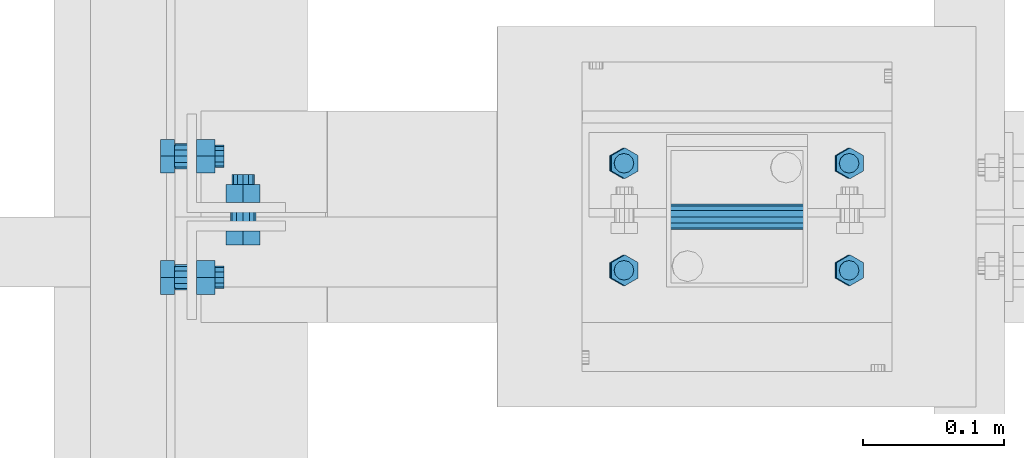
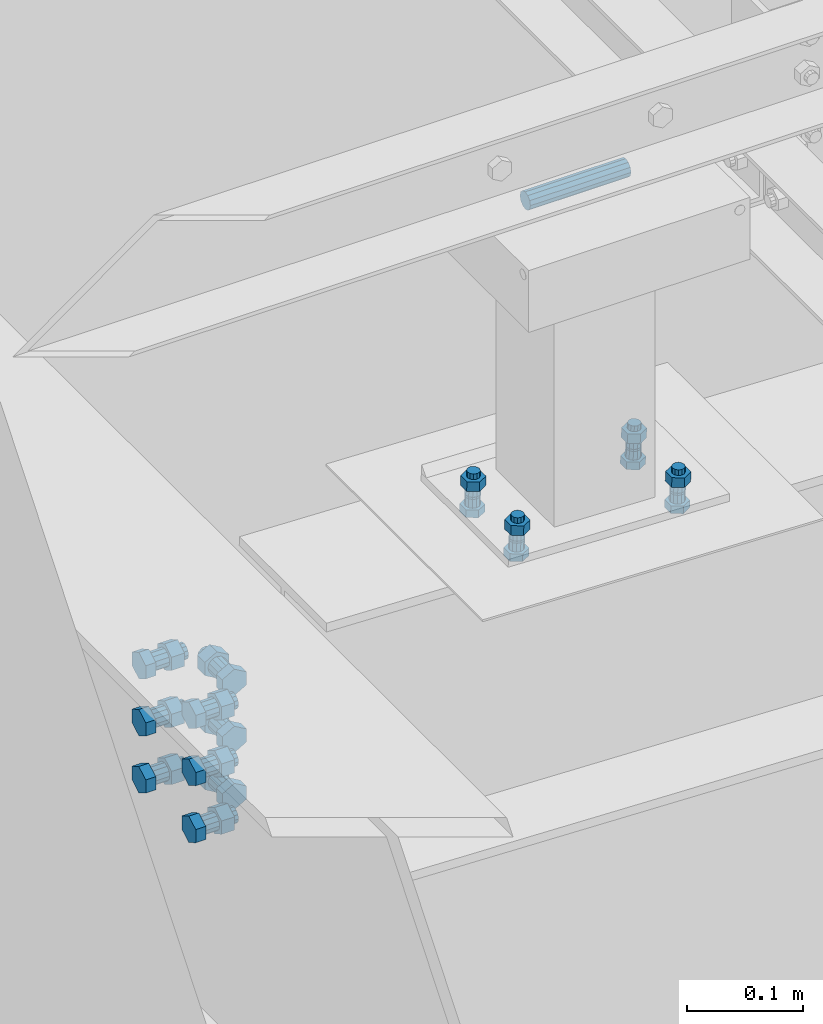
# One storey, part 208 of 3134: 6 mechanical fasteners, 4 elements without a shape of their own.
"""IFC2X3 building model written with IfcOpenShell, lengths in millimetres."""

from ifc_helpers import new_model, si_unit, frame, origin_with_axes, place, context, subcontext, project, spatial, faceted_brep, source, transform, mapped, material, type_object, element, aggregate, save


model = new_model("IFC2X3")

# Units and contexts
model_context = context("Model", 3, precision=1e-05, world=origin_with_axes())
body_context = subcontext(model_context, "Body", "Model", "MODEL_VIEW")
ifc_project = project(units=[si_unit("LENGTHUNIT", "METRE", prefix="MILLI"), si_unit("AREAUNIT", "SQUARE_METRE"), si_unit("VOLUMEUNIT", "CUBIC_METRE"), si_unit("MASSUNIT", "GRAM", prefix="KILO"), si_unit("TIMEUNIT", "SECOND"), si_unit("PLANEANGLEUNIT", "RADIAN"), si_unit("SOLIDANGLEUNIT", "STERADIAN"), si_unit("THERMODYNAMICTEMPERATUREUNIT", "DEGREE_CELSIUS"), si_unit("LUMINOUSINTENSITYUNIT", "LUMEN")], contexts=[model_context])

# Site, building, storey
site_placement = place(None, origin_with_axes())
site = spatial("IfcSite", under=ifc_project, at=site_placement, CompositionType="ELEMENT")
building_placement = place(site_placement, origin_with_axes())
building = spatial("IfcBuilding", under=site, at=building_placement, Name="Undefined", CompositionType="ELEMENT")
storey_placement = place(building_placement, origin_with_axes())
storey = spatial("IfcBuildingStorey", under=building, at=storey_placement, Name="Undefined", CompositionType="ELEMENT", Elevation=0.0)

# Assembly, mechanical fastener
assembly_1_placement = place(storey_placement, origin_with_axes())
assembly_1 = element("IfcElementAssembly", 1, at=assembly_1_placement, inside=storey, AssemblyPlace="NOTDEFINED", PredefinedType="RIGID_FRAME")
ifc_material = material(Name="8.8")
mechanical_fastener_type = type_object("IfcMechanicalFastenerType", Name="Bolt assembly")
shared_shape_1 = source(origin_with_axes(), body_context, "Body", "Brep", [
    faceted_brep([(13.856406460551, -18.5936482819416, 0.0), (6.92820323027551, -18.5936482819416, 12.0), (-6.92820323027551, -18.5936482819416, 12.0), (-13.856406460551, -18.5936482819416, 1.69692038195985e-15), (-6.92820323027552, -18.5936482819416, -12.0), (6.9282032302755, -18.5936482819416, -12.0), (6.9282032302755, -8.59364828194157, -12.0), (-6.92820323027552, -8.59364828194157, -12.0), (-13.856406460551, -8.59364828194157, 1.69692038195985e-15), (-6.92820323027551, -8.59364828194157, 12.0), (6.92820323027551, -8.59364828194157, 12.0), (13.856406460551, -8.59364828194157, 0.0), (8.0, -8.59364828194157, 0.0), (6.92820323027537, -8.59364828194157, 4.00000000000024), (3.99999999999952, -8.59364828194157, 6.92820323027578), (-8.29068785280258e-13, -8.59364828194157, 8.0), (-4.00000000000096, -8.59364828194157, 6.92820323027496), (-6.9282032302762, -8.59364828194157, 3.99999999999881), (-8.0, -8.59364828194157, -1.65813757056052e-12), (-6.92820323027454, -8.59364828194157, -4.00000000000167), (-3.99999999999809, -8.59364828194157, -6.92820323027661), (2.47832457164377e-12, -8.59364828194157, -8.0), (4.00000000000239, -8.59364828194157, -6.92820323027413), (6.92820323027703, -8.59364828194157, -3.99999999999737), (6.92820323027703, 26.4063517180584, -3.99999999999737), (4.00000000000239, 26.4063517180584, -6.92820323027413), (2.47832457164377e-12, 26.4063517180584, -8.0), (-3.99999999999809, 26.4063517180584, -6.92820323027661), (-6.92820323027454, 26.4063517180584, -4.00000000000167), (-8.0, 26.4063517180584, -1.65813757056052e-12), (-6.9282032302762, 26.4063517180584, 3.99999999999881), (-4.00000000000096, 26.4063517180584, 6.92820323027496), (-8.29068785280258e-13, 26.4063517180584, 8.0), (3.99999999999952, 26.4063517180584, 6.92820323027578), (6.92820323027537, 26.4063517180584, 4.00000000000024), (8.0, 26.4063517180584, 0.0), (13.856406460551, 7.0, 0.0), (6.92820323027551, 7.0, 12.0), (-6.92820323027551, 7.0, 12.0), (-13.856406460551, 7.0, 1.69692038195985e-15), (-6.92820323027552, 7.0, -12.0), (6.9282032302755, 7.0, -12.0), (6.9282032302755, 20.0, -12.0), (-6.92820323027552, 20.0, -12.0), (-13.856406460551, 20.0, 1.69692038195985e-15), (-6.92820323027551, 20.0, 12.0), (6.92820323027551, 20.0, 12.0), (13.856406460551, 20.0, 0.0)], [[[0, 1, 2, 3, 4, 5]], [[6, 7, 8, 9, 10, 11]], [[0, 11, 10, 1]], [[1, 10, 9, 2]], [[2, 9, 8, 3]], [[3, 8, 7, 4]], [[4, 7, 6, 5]], [[5, 6, 11, 0]], [[12, 13, 14, 15, 16, 17, 18, 19, 20, 21, 22, 23]], [[24, 25, 26, 27, 28, 29, 30, 31, 32, 33, 34, 35]], [[12, 35, 34, 13]], [[13, 34, 33, 14]], [[14, 33, 32, 15]], [[15, 32, 31, 16]], [[16, 31, 30, 17]], [[17, 30, 29, 18]], [[18, 29, 28, 19]], [[19, 28, 27, 20]], [[20, 27, 26, 21]], [[21, 26, 25, 22]], [[22, 25, 24, 23]], [[23, 24, 35, 12]], [[36, 37, 38, 39, 40, 41]], [[42, 43, 44, 45, 46, 47]], [[36, 47, 46, 37]], [[37, 46, 45, 38]], [[38, 45, 44, 39]], [[39, 44, 43, 40]], [[40, 43, 42, 41]], [[41, 42, 47, 36]]]),
    faceted_brep([(9.0, -8.49364828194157, 0.0), (7.79422863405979, -8.49364828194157, 4.50000000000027), (4.49999999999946, -8.49364828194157, 7.79422863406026), (-9.3270238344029e-13, -8.49364828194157, 9.0), (-4.50000000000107, -8.49364828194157, 7.79422863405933), (-7.79422863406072, -8.49364828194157, 4.49999999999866), (-9.0, -8.49364828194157, -1.86540476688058e-12), (-7.79422863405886, -8.49364828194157, -4.50000000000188), (-4.49999999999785, -8.49364828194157, -7.79422863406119), (2.78811514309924e-12, -8.49364828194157, -9.0), (4.50000000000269, -8.49364828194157, -7.7942286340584), (7.79422863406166, -8.49364828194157, -4.49999999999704), (7.79422863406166, 0.10635209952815, -4.49999999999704), (4.50000000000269, 0.10635209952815, -7.7942286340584), (2.78811514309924e-12, 0.10635209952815, -9.0), (-4.49999999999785, 0.10635209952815, -7.79422863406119), (-7.79422863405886, 0.10635209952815, -4.50000000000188), (-9.0, 0.10635209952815, -1.86540476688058e-12), (-7.79422863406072, 0.10635209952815, 4.49999999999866), (-4.50000000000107, 0.10635209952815, 7.79422863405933), (-9.3270238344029e-13, 0.10635209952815, 9.0), (4.49999999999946, 0.10635209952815, 7.79422863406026), (7.79422863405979, 0.10635209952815, 4.50000000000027), (9.0, 0.10635209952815, 0.0), (9.0, -0.1, 0.0), (7.79422863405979, -0.1, 4.50000000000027), (4.49999999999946, -0.1, 7.79422863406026), (-9.3270238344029e-13, -0.1, 9.0), (-4.50000000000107, -0.1, 7.79422863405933), (-7.79422863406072, -0.1, 4.49999999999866), (-9.0, -0.1, -1.86540476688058e-12), (-7.79422863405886, -0.1, -4.50000000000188), (-4.49999999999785, -0.1, -7.79422863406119), (2.78811514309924e-12, -0.1, -9.0), (4.50000000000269, -0.1, -7.7942286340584), (7.79422863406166, -0.1, -4.49999999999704), (7.79422863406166, 7.0, -4.49999999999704), (4.50000000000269, 7.0, -7.7942286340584), (2.78811514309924e-12, 7.0, -9.0), (-4.49999999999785, 7.0, -7.79422863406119), (-7.79422863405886, 7.0, -4.50000000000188), (-9.0, 7.0, -1.86540476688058e-12), (-7.79422863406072, 7.0, 4.49999999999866), (-4.50000000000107, 7.0, 7.79422863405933), (-9.3270238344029e-13, 7.0, 9.0), (4.49999999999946, 7.0, 7.79422863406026), (7.79422863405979, 7.0, 4.50000000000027), (9.0, 7.0, 0.0)], [[[0, 1, 2, 3, 4, 5, 6, 7, 8, 9, 10, 11]], [[12, 13, 14, 15, 16, 17, 18, 19, 20, 21, 22, 23]], [[0, 23, 22, 1]], [[1, 22, 21, 2]], [[2, 21, 20, 3]], [[3, 20, 19, 4]], [[4, 19, 18, 5]], [[5, 18, 17, 6]], [[6, 17, 16, 7]], [[7, 16, 15, 8]], [[8, 15, 14, 9]], [[9, 14, 13, 10]], [[10, 13, 12, 11]], [[11, 12, 23, 0]], [[24, 25, 26, 27, 28, 29, 30, 31, 32, 33, 34, 35]], [[36, 37, 38, 39, 40, 41, 42, 43, 44, 45, 46, 47]], [[24, 47, 46, 25]], [[25, 46, 45, 26]], [[26, 45, 44, 27]], [[27, 44, 43, 28]], [[28, 43, 42, 29]], [[29, 42, 41, 30]], [[30, 41, 40, 31]], [[31, 40, 39, 32]], [[32, 39, 38, 33]], [[33, 38, 37, 34]], [[34, 37, 36, 35]], [[35, 36, 47, 24]]]),
])
mechanical_fastener_1_placement = place(assembly_1_placement, frame((4.29364809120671, 45809.71, 3841.86727512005), z_axis=(0.0, 1.0, 0.0), x_axis=(0.0, 0.0, 1.0)))
mechanical_fastener_1 = element("IfcMechanicalFastener", 2, at=mechanical_fastener_1_placement, type_object=mechanical_fastener_type, material=ifc_material, Name="Bolt assembly", NominalDiameter=16.0, NominalLength=35.0, context=body_context, shape_type="MappedRepresentation", body=[
    mapped(shared_shape_1, transform((0.0, 0.0, 0.0))),
    mapped(shared_shape_1, transform((59.9999999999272, 0.0, 5.40239852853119e-10))),
    mapped(shared_shape_1, transform((120.0, 0.0, 0.0))),
])
aggregate(assembly_1, [mechanical_fastener_1])

# Assembly, mechanical fasteners
assembly_2_placement = place(storey_placement, origin_with_axes())
assembly_2 = element("IfcElementAssembly", 3, at=assembly_2_placement, inside=storey, AssemblyPlace="NOTDEFINED", PredefinedType="RIGID_FRAME")
mechanical_fastener_2_placement = place(assembly_2_placement, frame((4.29364809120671, 45723.63, 3841.86727512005), z_axis=(0.0, 1.0, 0.0), x_axis=(0.0, 0.0, 1.0)))
mechanical_fastener_2 = element("IfcMechanicalFastener", 4, at=mechanical_fastener_2_placement, type_object=mechanical_fastener_type, material=ifc_material, Name="Bolt assembly", NominalDiameter=16.0, NominalLength=35.0, context=body_context, shape_type="MappedRepresentation", body=[
    mapped(shared_shape_1, transform((0.0, 0.0, 0.0))),
    mapped(shared_shape_1, transform((59.9999999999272, 0.0, 5.40239852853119e-10))),
    mapped(shared_shape_1, transform((120.0, 0.0, 0.0))),
])
shared_shape_2 = source(origin_with_axes(), body_context, "Body", "Brep", [
    faceted_brep([(13.856406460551, -20.0400000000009, 0.0), (6.92820323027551, -20.0400000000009, 12.0), (-6.92820323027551, -20.0400000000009, 12.0), (-13.856406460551, -20.0400000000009, 1.69692038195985e-15), (-6.92820323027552, -20.0400000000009, -12.0), (6.9282032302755, -20.0400000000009, -12.0), (6.9282032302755, -10.0400000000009, -12.0), (-6.92820323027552, -10.0400000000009, -12.0), (-13.856406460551, -10.0400000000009, 1.69692038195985e-15), (-6.92820323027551, -10.0400000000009, 12.0), (6.92820323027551, -10.0400000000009, 12.0), (13.856406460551, -10.0400000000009, 0.0), (8.0, -10.0400000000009, 0.0), (6.92820323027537, -10.0400000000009, 4.00000000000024), (3.99999999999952, -10.0400000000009, 6.92820323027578), (-8.29068785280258e-13, -10.0400000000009, 8.0), (-4.00000000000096, -10.0400000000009, 6.92820323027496), (-6.9282032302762, -10.0400000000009, 3.99999999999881), (-8.0, -10.0400000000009, -1.65813757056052e-12), (-6.92820323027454, -10.0400000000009, -4.00000000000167), (-3.99999999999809, -10.0400000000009, -6.92820323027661), (2.47832457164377e-12, -10.0400000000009, -8.0), (4.00000000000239, -10.0400000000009, -6.92820323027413), (6.92820323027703, -10.0400000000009, -3.99999999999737), (6.92820323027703, 29.9599999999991, -3.99999999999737), (4.00000000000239, 29.9599999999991, -6.92820323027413), (2.47832457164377e-12, 29.9599999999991, -8.0), (-3.99999999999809, 29.9599999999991, -6.92820323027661), (-6.92820323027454, 29.9599999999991, -4.00000000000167), (-8.0, 29.9599999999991, -1.65813757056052e-12), (-6.9282032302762, 29.9599999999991, 3.99999999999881), (-4.00000000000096, 29.9599999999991, 6.92820323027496), (-8.29068785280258e-13, 29.9599999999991, 8.0), (3.99999999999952, 29.9599999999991, 6.92820323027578), (6.92820323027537, 29.9599999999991, 4.00000000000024), (8.0, 29.9599999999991, 0.0), (13.856406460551, 10.0400000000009, 0.0), (6.92820323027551, 10.0400000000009, 12.0), (-6.92820323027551, 10.0400000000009, 12.0), (-13.856406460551, 10.0400000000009, 1.69692038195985e-15), (-6.92820323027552, 10.0400000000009, -12.0), (6.9282032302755, 10.0400000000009, -12.0), (6.9282032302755, 23.0400000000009, -12.0), (-6.92820323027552, 23.0400000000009, -12.0), (-13.856406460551, 23.0400000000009, 1.69692038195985e-15), (-6.92820323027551, 23.0400000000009, 12.0), (6.92820323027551, 23.0400000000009, 12.0), (13.856406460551, 23.0400000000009, 0.0)], [[[0, 1, 2, 3, 4, 5]], [[6, 7, 8, 9, 10, 11]], [[0, 11, 10, 1]], [[1, 10, 9, 2]], [[2, 9, 8, 3]], [[3, 8, 7, 4]], [[4, 7, 6, 5]], [[5, 6, 11, 0]], [[12, 13, 14, 15, 16, 17, 18, 19, 20, 21, 22, 23]], [[24, 25, 26, 27, 28, 29, 30, 31, 32, 33, 34, 35]], [[12, 35, 34, 13]], [[13, 34, 33, 14]], [[14, 33, 32, 15]], [[15, 32, 31, 16]], [[16, 31, 30, 17]], [[17, 30, 29, 18]], [[18, 29, 28, 19]], [[19, 28, 27, 20]], [[20, 27, 26, 21]], [[21, 26, 25, 22]], [[22, 25, 24, 23]], [[23, 24, 35, 12]], [[36, 37, 38, 39, 40, 41]], [[42, 43, 44, 45, 46, 47]], [[36, 47, 46, 37]], [[37, 46, 45, 38]], [[38, 45, 44, 39]], [[39, 44, 43, 40]], [[40, 43, 42, 41]], [[41, 42, 47, 36]]]),
    faceted_brep([(9.0, -3.04999995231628, 0.0), (7.79422863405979, -3.04999995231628, 4.50000000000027), (4.49999999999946, -3.04999995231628, 7.79422863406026), (-9.3270238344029e-13, -3.04999995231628, 9.0), (-4.50000000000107, -3.04999995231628, 7.79422863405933), (-7.79422863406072, -3.04999995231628, 4.49999999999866), (-9.0, -3.04999995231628, -1.86540476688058e-12), (-7.79422863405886, -3.04999995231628, -4.50000000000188), (-4.49999999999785, -3.04999995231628, -7.79422863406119), (2.78811514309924e-12, -3.04999995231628, -9.0), (4.50000000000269, -3.04999995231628, -7.7942286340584), (7.79422863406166, -3.04999995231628, -4.49999999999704), (7.79422863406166, 3.04999995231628, -4.49999999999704), (4.50000000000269, 3.04999995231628, -7.7942286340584), (2.78811514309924e-12, 3.04999995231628, -9.0), (-4.49999999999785, 3.04999995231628, -7.79422863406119), (-7.79422863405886, 3.04999995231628, -4.50000000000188), (-9.0, 3.04999995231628, -1.86540476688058e-12), (-7.79422863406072, 3.04999995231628, 4.49999999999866), (-4.50000000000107, 3.04999995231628, 7.79422863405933), (-9.3270238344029e-13, 3.04999995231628, 9.0), (4.49999999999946, 3.04999995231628, 7.79422863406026), (7.79422863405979, 3.04999995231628, 4.50000000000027), (9.0, 3.04999995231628, 0.0), (9.0, -9.94000000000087, 0.0), (7.79422863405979, -9.94000000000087, 4.50000000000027), (4.49999999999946, -9.94000000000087, 7.79422863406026), (-9.3270238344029e-13, -9.94000000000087, 9.0), (-4.50000000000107, -9.94000000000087, 7.79422863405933), (-7.79422863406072, -9.94000000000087, 4.49999999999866), (-9.0, -9.94000000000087, -1.86540476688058e-12), (-7.79422863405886, -9.94000000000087, -4.50000000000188), (-4.49999999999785, -9.94000000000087, -7.79422863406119), (2.78811514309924e-12, -9.94000000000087, -9.0), (4.50000000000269, -9.94000000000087, -7.7942286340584), (7.79422863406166, -9.94000000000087, -4.49999999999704), (7.79422863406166, -2.94000000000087, -4.49999999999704), (4.50000000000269, -2.94000000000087, -7.7942286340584), (2.78811514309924e-12, -2.94000000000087, -9.0), (-4.49999999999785, -2.94000000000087, -7.79422863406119), (-7.79422863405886, -2.94000000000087, -4.50000000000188), (-9.0, -2.94000000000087, -1.86540476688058e-12), (-7.79422863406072, -2.94000000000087, 4.49999999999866), (-4.50000000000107, -2.94000000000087, 7.79422863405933), (-9.3270238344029e-13, -2.94000000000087, 9.0), (4.49999999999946, -2.94000000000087, 7.79422863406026), (7.79422863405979, -2.94000000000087, 4.50000000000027), (9.0, -2.94000000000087, 0.0), (9.0, 2.94000000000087, 0.0), (7.79422863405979, 2.94000000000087, 4.50000000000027), (4.49999999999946, 2.94000000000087, 7.79422863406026), (-9.3270238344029e-13, 2.94000000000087, 9.0), (-4.50000000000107, 2.94000000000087, 7.79422863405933), (-7.79422863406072, 2.94000000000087, 4.49999999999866), (-9.0, 2.94000000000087, -1.86540476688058e-12), (-7.79422863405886, 2.94000000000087, -4.50000000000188), (-4.49999999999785, 2.94000000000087, -7.79422863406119), (2.78811514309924e-12, 2.94000000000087, -9.0), (4.50000000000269, 2.94000000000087, -7.7942286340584), (7.79422863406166, 2.94000000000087, -4.49999999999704), (7.79422863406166, 10.0400000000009, -4.49999999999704), (4.50000000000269, 10.0400000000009, -7.7942286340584), (2.78811514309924e-12, 10.0400000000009, -9.0), (-4.49999999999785, 10.0400000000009, -7.79422863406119), (-7.79422863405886, 10.0400000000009, -4.50000000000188), (-9.0, 10.0400000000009, -1.86540476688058e-12), (-7.79422863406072, 10.0400000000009, 4.49999999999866), (-4.50000000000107, 10.0400000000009, 7.79422863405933), (-9.3270238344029e-13, 10.0400000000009, 9.0), (4.49999999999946, 10.0400000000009, 7.79422863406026), (7.79422863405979, 10.0400000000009, 4.50000000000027), (9.0, 10.0400000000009, 0.0)], [[[0, 1, 2, 3, 4, 5, 6, 7, 8, 9, 10, 11]], [[12, 13, 14, 15, 16, 17, 18, 19, 20, 21, 22, 23]], [[0, 23, 22, 1]], [[1, 22, 21, 2]], [[2, 21, 20, 3]], [[3, 20, 19, 4]], [[4, 19, 18, 5]], [[5, 18, 17, 6]], [[6, 17, 16, 7]], [[7, 16, 15, 8]], [[8, 15, 14, 9]], [[9, 14, 13, 10]], [[10, 13, 12, 11]], [[11, 12, 23, 0]], [[24, 25, 26, 27, 28, 29, 30, 31, 32, 33, 34, 35]], [[36, 37, 38, 39, 40, 41, 42, 43, 44, 45, 46, 47]], [[24, 47, 46, 25]], [[25, 46, 45, 26]], [[26, 45, 44, 27]], [[27, 44, 43, 28]], [[28, 43, 42, 29]], [[29, 42, 41, 30]], [[30, 41, 40, 31]], [[31, 40, 39, 32]], [[32, 39, 38, 33]], [[33, 38, 37, 34]], [[34, 37, 36, 35]], [[35, 36, 47, 24]], [[48, 49, 50, 51, 52, 53, 54, 55, 56, 57, 58, 59]], [[60, 61, 62, 63, 64, 65, 66, 67, 68, 69, 70, 71]], [[48, 71, 70, 49]], [[49, 70, 69, 50]], [[50, 69, 68, 51]], [[51, 68, 67, 52]], [[52, 67, 66, 53]], [[53, 66, 65, 54]], [[54, 65, 64, 55]], [[55, 64, 63, 56]], [[56, 63, 62, 57]], [[57, 62, 61, 58]], [[58, 61, 60, 59]], [[59, 60, 71, 48]]]),
])
mechanical_fastener_3_placement = place(assembly_2_placement, frame((44.2936480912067, 45766.67, 3841.86727512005), z_axis=(-1.0, 0.0, 0.0), x_axis=(0.0, 0.0, 1.0)))
mechanical_fastener_3 = element("IfcMechanicalFastener", 5, at=mechanical_fastener_3_placement, type_object=mechanical_fastener_type, material=ifc_material, Name="Bolt assembly", NominalDiameter=16.0, NominalLength=40.0, context=body_context, shape_type="MappedRepresentation", body=[
    mapped(shared_shape_2, transform((0.0, 0.0, 0.0))),
    mapped(shared_shape_2, transform((59.9999999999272, 0.0, 5.40239852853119e-10))),
    mapped(shared_shape_2, transform((120.0, 0.0, 0.0))),
])
aggregate(assembly_2, [mechanical_fastener_2, mechanical_fastener_3])

# Assembly, mechanical fastener
assembly_3_placement = place(storey_placement, origin_with_axes())
assembly_3 = element("IfcElementAssembly", 6, at=assembly_3_placement, inside=storey, AssemblyPlace="NOTDEFINED", PredefinedType="RIGID_FRAME")
shared_shape_3 = source(origin_with_axes(), body_context, "Body", "Brep", [
    faceted_brep([(10.9696551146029, -4.19432770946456, 0.0), (5.48482755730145, -4.19432770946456, 9.5), (-5.48482755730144, -4.19432770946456, 9.5), (-10.9696551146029, -4.19432770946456, 1.34339530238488e-15), (-5.48482755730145, -4.19432770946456, -9.5), (5.48482755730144, -4.19432770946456, -9.50000000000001), (5.48482755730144, 3.80567229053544, -9.50000000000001), (-5.48482755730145, 3.80567229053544, -9.5), (-10.9696551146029, 3.80567229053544, 1.34339530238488e-15), (-5.48482755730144, 3.80567229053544, 9.5), (5.48482755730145, 3.80567229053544, 9.5), (10.9696551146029, 3.80567229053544, 0.0), (6.0, 3.80567229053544, 0.0), (5.19615242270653, 3.80567229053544, 3.00000000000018), (2.99999999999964, 3.80567229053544, 5.19615242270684), (-6.21801588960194e-13, 3.80567229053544, 6.0), (-3.00000000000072, 3.80567229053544, 5.19615242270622), (-5.19615242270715, 3.80567229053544, 2.9999999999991), (-6.0, 3.80567229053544, -1.24360317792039e-12), (-5.19615242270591, 3.80567229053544, -3.00000000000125), (-2.99999999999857, 3.80567229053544, -5.19615242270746), (1.85874342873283e-12, 3.80567229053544, -6.0), (3.00000000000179, 3.80567229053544, -5.1961524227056), (5.19615242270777, 3.80567229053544, -2.99999999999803), (5.19615242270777, 38.8056722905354, -2.99999999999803), (3.00000000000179, 38.8056722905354, -5.1961524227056), (1.85874342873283e-12, 38.8056722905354, -6.0), (-2.99999999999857, 38.8056722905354, -5.19615242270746), (-5.19615242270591, 38.8056722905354, -3.00000000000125), (-6.0, 38.8056722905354, -1.24360317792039e-12), (-5.19615242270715, 38.8056722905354, 2.9999999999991), (-3.00000000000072, 38.8056722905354, 5.19615242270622), (-6.21801588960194e-13, 38.8056722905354, 6.0), (2.99999999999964, 38.8056722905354, 5.19615242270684), (5.19615242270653, 38.8056722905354, 3.00000000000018), (6.0, 38.8056722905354, 0.0), (10.9696551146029, 23.0139082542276, 0.0), (5.48482755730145, 23.0139082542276, 9.5), (-5.48482755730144, 23.0139082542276, 9.5), (-10.9696551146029, 23.0139082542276, 1.34339530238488e-15), (-5.48482755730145, 23.0139082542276, -9.5), (5.48482755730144, 23.0139082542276, -9.50000000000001), (5.48482755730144, 33.0139082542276, -9.50000000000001), (-5.48482755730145, 33.0139082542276, -9.5), (-10.9696551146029, 33.0139082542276, 1.34339530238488e-15), (-5.48482755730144, 33.0139082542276, 9.5), (5.48482755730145, 33.0139082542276, 9.5), (10.9696551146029, 33.0139082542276, 0.0)], [[[0, 1, 2, 3, 4, 5]], [[6, 7, 8, 9, 10, 11]], [[0, 11, 10, 1]], [[1, 10, 9, 2]], [[2, 9, 8, 3]], [[3, 8, 7, 4]], [[4, 7, 6, 5]], [[5, 6, 11, 0]], [[12, 13, 14, 15, 16, 17, 18, 19, 20, 21, 22, 23]], [[24, 25, 26, 27, 28, 29, 30, 31, 32, 33, 34, 35]], [[12, 35, 34, 13]], [[13, 34, 33, 14]], [[14, 33, 32, 15]], [[15, 32, 31, 16]], [[16, 31, 30, 17]], [[17, 30, 29, 18]], [[18, 29, 28, 19]], [[19, 28, 27, 20]], [[20, 27, 26, 21]], [[21, 26, 25, 22]], [[22, 25, 24, 23]], [[23, 24, 35, 12]], [[36, 37, 38, 39, 40, 41]], [[42, 43, 44, 45, 46, 47]], [[36, 47, 46, 37]], [[37, 46, 45, 38]], [[38, 45, 44, 39]], [[39, 44, 43, 40]], [[40, 43, 42, 41]], [[41, 42, 47, 36]]]),
    faceted_brep([(7.0, 3.90567229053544, 0.0), (6.06217782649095, 3.90567229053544, 3.50000000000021), (3.49999999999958, 3.90567229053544, 6.06217782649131), (-7.25435187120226e-13, 3.90567229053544, 7.0), (-3.50000000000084, 3.90567229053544, 6.06217782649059), (-6.06217782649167, 3.90567229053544, 3.49999999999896), (-7.0, 3.90567229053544, -1.45087037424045e-12), (-6.06217782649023, 3.90567229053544, -3.50000000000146), (-3.49999999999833, 3.90567229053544, -6.06217782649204), (2.1685340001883e-12, 3.90567229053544, -7.0), (3.50000000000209, 3.90567229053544, -6.06217782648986), (6.0621778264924, 3.90567229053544, -3.4999999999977), (6.0621778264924, 13.1056721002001, -3.4999999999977), (3.50000000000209, 13.1056721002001, -6.06217782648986), (2.1685340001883e-12, 13.1056721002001, -7.0), (-3.49999999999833, 13.1056721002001, -6.06217782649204), (-6.06217782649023, 13.1056721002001, -3.50000000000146), (-7.0, 13.1056721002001, -1.45087037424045e-12), (-6.06217782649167, 13.1056721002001, 3.49999999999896), (-3.50000000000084, 13.1056721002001, 6.06217782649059), (-7.25435187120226e-13, 13.1056721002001, 7.0), (3.49999999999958, 13.1056721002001, 6.06217782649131), (6.06217782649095, 13.1056721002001, 3.50000000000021), (7.0, 13.1056721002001, 0.0), (7.0, 14.9139082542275, 0.0), (6.06217782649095, 14.9139082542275, 3.50000000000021), (3.49999999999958, 14.9139082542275, 6.06217782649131), (-7.25435187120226e-13, 14.9139082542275, 7.0), (-3.50000000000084, 14.9139082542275, 6.06217782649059), (-6.06217782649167, 14.9139082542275, 3.49999999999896), (-7.0, 14.9139082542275, -1.45087037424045e-12), (-6.06217782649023, 14.9139082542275, -3.50000000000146), (-3.49999999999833, 14.9139082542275, -6.06217782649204), (2.1685340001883e-12, 14.9139082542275, -7.0), (3.50000000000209, 14.9139082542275, -6.06217782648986), (6.0621778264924, 14.9139082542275, -3.4999999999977), (6.0621778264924, 23.0139082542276, -3.4999999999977), (3.50000000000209, 23.0139082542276, -6.06217782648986), (2.1685340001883e-12, 23.0139082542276, -7.0), (-3.49999999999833, 23.0139082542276, -6.06217782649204), (-6.06217782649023, 23.0139082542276, -3.50000000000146), (-7.0, 23.0139082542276, -1.45087037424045e-12), (-6.06217782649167, 23.0139082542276, 3.49999999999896), (-3.50000000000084, 23.0139082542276, 6.06217782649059), (-7.25435187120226e-13, 23.0139082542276, 7.0), (3.49999999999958, 23.0139082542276, 6.06217782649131), (6.06217782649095, 23.0139082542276, 3.50000000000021), (7.0, 23.0139082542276, 0.0)], [[[0, 1, 2, 3, 4, 5, 6, 7, 8, 9, 10, 11]], [[12, 13, 14, 15, 16, 17, 18, 19, 20, 21, 22, 23]], [[0, 23, 22, 1]], [[1, 22, 21, 2]], [[2, 21, 20, 3]], [[3, 20, 19, 4]], [[4, 19, 18, 5]], [[5, 18, 17, 6]], [[6, 17, 16, 7]], [[7, 16, 15, 8]], [[8, 15, 14, 9]], [[9, 14, 13, 10]], [[10, 13, 12, 11]], [[11, 12, 23, 0]], [[24, 25, 26, 27, 28, 29, 30, 31, 32, 33, 34, 35]], [[36, 37, 38, 39, 40, 41, 42, 43, 44, 45, 46, 47]], [[24, 47, 46, 25]], [[25, 46, 45, 26]], [[26, 45, 44, 27]], [[27, 44, 43, 28]], [[28, 43, 42, 29]], [[29, 42, 41, 30]], [[30, 41, 40, 31]], [[31, 40, 39, 32]], [[32, 39, 38, 33]], [[33, 38, 37, 34]], [[34, 37, 36, 35]], [[35, 36, 47, 24]]]),
])
mechanical_fastener_4_placement = place(assembly_3_placement, frame((394.193176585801, 45804.6599999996, 4013.19000668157), z_axis=(-0.999387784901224, 0.0, 0.0349865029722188), x_axis=(0.0, -1.0, 0.0)))
mechanical_fastener_4 = element("IfcMechanicalFastener", 7, at=mechanical_fastener_4_placement, type_object=mechanical_fastener_type, material=ifc_material, Name="Bolt assembly", NominalDiameter=12.0, NominalLength=35.0, context=body_context, shape_type="MappedRepresentation", body=[
    mapped(shared_shape_3, transform((0.0, -5.32963895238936e-10, -79.9999999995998))),
    mapped(shared_shape_3, transform((76.0, -5.32963895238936e-10, -79.9999999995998))),
    mapped(shared_shape_3, transform((0.0, 5.3114490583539e-10, 79.9999999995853))),
    mapped(shared_shape_3, transform((76.0, 5.3114490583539e-10, 79.9999999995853))),
])

assembly_4_placement = place(storey_placement, origin_with_axes())
assembly_4 = element("IfcElementAssembly", 8, at=assembly_4_placement, inside=storey, AssemblyPlace="NOTDEFINED", PredefinedType="RIGID_FRAME")
shared_shape_4 = source(origin_with_axes(), body_context, "Body", "Brep", [
    faceted_brep([(7.0, 13.0000253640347, 0.0), (6.06217782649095, 13.0000253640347, 3.50000000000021), (3.49999999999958, 13.0000253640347, 6.06217782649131), (-7.25435187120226e-13, 13.0000253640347, 7.0), (-3.50000000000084, 13.0000253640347, 6.06217782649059), (-6.06217782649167, 13.0000253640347, 3.49999999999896), (-7.0, 13.0000253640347, -1.45087037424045e-12), (-6.06217782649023, 13.0000253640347, -3.50000000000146), (-3.49999999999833, 13.0000253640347, -6.06217782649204), (2.1685340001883e-12, 13.0000253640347, -7.0), (3.50000000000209, 13.0000253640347, -6.06217782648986), (6.0621778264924, 13.0000253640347, -3.4999999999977), (6.0621778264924, 15.0999999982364, -3.4999999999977), (3.50000000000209, 15.0999999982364, -6.06217782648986), (2.1685340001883e-12, 15.0999999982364, -7.0), (-3.49999999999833, 15.0999999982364, -6.06217782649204), (-6.06217782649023, 15.0999999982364, -3.50000000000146), (-7.0, 15.0999999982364, -1.45087037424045e-12), (-6.06217782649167, 15.0999999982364, 3.49999999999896), (-3.50000000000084, 15.0999999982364, 6.06217782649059), (-7.25435187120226e-13, 15.0999999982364, 7.0), (3.49999999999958, 15.0999999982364, 6.06217782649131), (6.06217782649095, 15.0999999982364, 3.50000000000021), (7.0, 15.0999999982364, 0.0)], [[[0, 1, 2, 3, 4, 5, 6, 7, 8, 9, 10, 11]], [[12, 13, 14, 15, 16, 17, 18, 19, 20, 21, 22, 23]], [[0, 23, 22, 1]], [[1, 22, 21, 2]], [[2, 21, 20, 3]], [[3, 20, 19, 4]], [[4, 19, 18, 5]], [[5, 18, 17, 6]], [[6, 17, 16, 7]], [[7, 16, 15, 8]], [[8, 15, 14, 9]], [[9, 14, 13, 10]], [[10, 13, 12, 11]], [[11, 12, 23, 0]]]),
])
mechanical_fastener_5_placement = place(assembly_4_placement, frame((394.193176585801, 45804.6599999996, 4013.19000668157), z_axis=(-0.999387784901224, 0.0, 0.0349865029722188), x_axis=(0.0, -1.0, 0.0)))
mechanical_fastener_5 = element("IfcMechanicalFastener", 9, at=mechanical_fastener_5_placement, type_object=mechanical_fastener_type, material=ifc_material, Name="Bolt assembly", NominalDiameter=12.0, NominalLength=2.0, context=body_context, shape_type="MappedRepresentation", body=[
    mapped(shared_shape_4, transform((0.0, -5.32963895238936e-10, -79.9999999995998))),
    mapped(shared_shape_4, transform((76.0, -5.32963895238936e-10, -79.9999999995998))),
    mapped(shared_shape_4, transform((0.0, 5.3114490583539e-10, 79.9999999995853))),
    mapped(shared_shape_4, transform((76.0, 5.3114490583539e-10, 79.9999999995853))),
])
aggregate(assembly_4, [mechanical_fastener_5])

# Mechanical fastener
shared_shape_5 = source(origin_with_axes(), body_context, "Body", "Brep", [
    faceted_brep([(9.0, -50.0, 0.0), (7.79422863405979, -50.0, 4.50000000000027), (4.49999999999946, -50.0, 7.79422863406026), (-9.3270238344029e-13, -50.0, 9.0), (-4.50000000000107, -50.0, 7.79422863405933), (-7.79422863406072, -50.0, 4.49999999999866), (-9.0, -50.0, -1.86540476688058e-12), (-7.79422863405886, -50.0, -4.50000000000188), (-4.49999999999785, -50.0, -7.79422863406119), (2.78811514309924e-12, -50.0, -9.0), (4.50000000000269, -50.0, -7.7942286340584), (7.79422863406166, -50.0, -4.49999999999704), (7.79422863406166, 50.1, -4.49999999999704), (4.50000000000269, 50.1, -7.7942286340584), (2.78811514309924e-12, 50.1, -9.0), (-4.49999999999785, 50.1, -7.79422863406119), (-7.79422863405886, 50.1, -4.50000000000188), (-9.0, 50.1, -1.86540476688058e-12), (-7.79422863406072, 50.1, 4.49999999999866), (-4.50000000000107, 50.1, 7.79422863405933), (-9.3270238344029e-13, 50.1, 9.0), (4.49999999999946, 50.1, 7.79422863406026), (7.79422863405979, 50.1, 4.50000000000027), (9.0, 50.1, 0.0)], [[[0, 1, 2, 3, 4, 5, 6, 7, 8, 9, 10, 11]], [[12, 13, 14, 15, 16, 17, 18, 19, 20, 21, 22, 23]], [[0, 23, 22, 1]], [[1, 22, 21, 2]], [[2, 21, 20, 3]], [[3, 20, 19, 4]], [[4, 19, 18, 5]], [[5, 18, 17, 6]], [[6, 17, 16, 7]], [[7, 16, 15, 8]], [[8, 15, 14, 9]], [[9, 14, 13, 10]], [[10, 13, 12, 11]], [[11, 12, 23, 0]]]),
])
mechanical_fastener_6_placement = place(assembly_3_placement, frame((395.0, 45766.66, 4351.0), z_axis=(0.0, 1.0, 0.0), x_axis=(0.0, 0.0, 1.0)))
mechanical_fastener_6 = element("IfcMechanicalFastener", 10, at=mechanical_fastener_6_placement, type_object=mechanical_fastener_type, material=ifc_material, Name="Bolt assembly", NominalDiameter=16.0, NominalLength=100.0, context=body_context, shape_type="MappedRepresentation", body=[
    mapped(shared_shape_5, transform((0.0, 0.0, 0.0))),
])

aggregate(assembly_3, [mechanical_fastener_6, mechanical_fastener_4])

save(model, "model.ifc")
